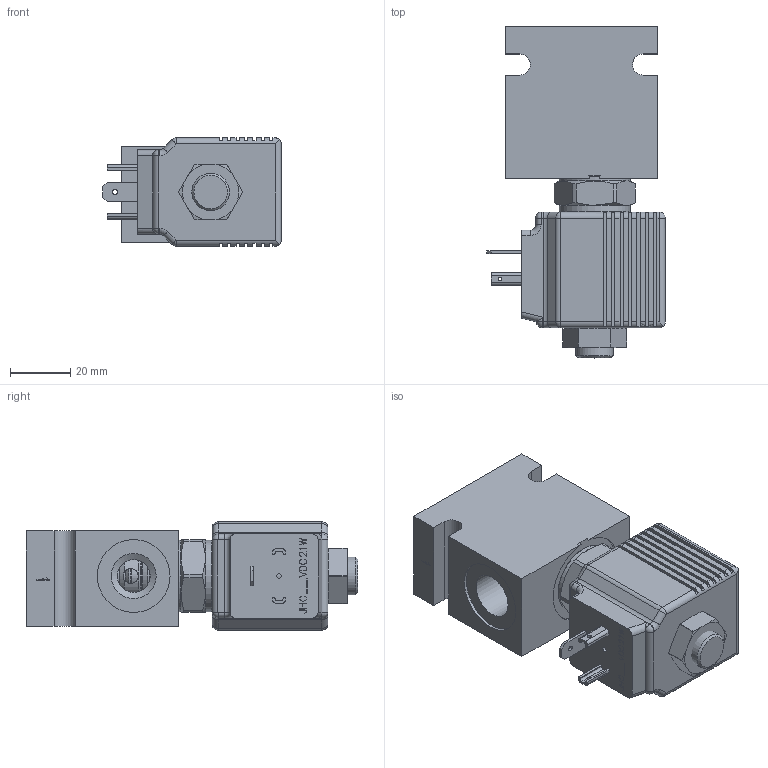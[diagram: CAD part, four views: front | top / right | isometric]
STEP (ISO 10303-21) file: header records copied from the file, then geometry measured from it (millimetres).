
FILE_DESCRIPTION(/* description */ ('Unknown'),/* implementation_level */ '2;1');
FILE_NAME(/* name */ 'T-HBS2K00B2',/* time_stamp */ '2019-08-14T16:12:41+01:00',/* author */ ('Unknown'),/* organization */ ('Unknown'),/* preprocessor_version */ 'ST-DEVELOPER v16.7',/* originating_system */ 'DEX',/* authorisation */ $);
FILE_SCHEMA (('AUTOMOTIVE_DESIGN {1 0 10303 214 3 1 1}'));
Length unit declared in the file: millimetre
Products named in the file (8): T-HBS2K00B2; HBS2K00_0; T-JHC-26-O Rings_0; T-JHC26_0; PT-OR-2-015-N70A_0; Delta_1_2_nut1_0; PT-OR-2-012-E70A_0; B-DPBB2
Assembly tree (8 placements, depth 3):
  T-HBS2K00B2
    HBS2K00_0
    T-JHC-26-O Rings_0
      T-JHC26_0
      PT-OR-2-015-N70A_0  x2
    Delta_1_2_nut1_0
    PT-OR-2-012-E70A_0
    B-DPBB2
Bounding box: 59.4 x 110.4 x 36 mm (x, y, z)
Volume: 65866.1 mm3; surface area: 34949.4 mm2
Topology: 5 solids, 9 shells, 636 faces, 1677 edges, 1079 vertices
Faces by surface type: plane 411, cylinder 123, cone 55, torus 36, sphere 8, bspline 3
Full cylindrical faces by diameter (mm): 0.2 x2, 0.4 x2, 1.245 x2, 1.5 x2, 1.666 x1, 2 x3, 2.65 x2, 2.7 x1, 3 x2, 5 x4, 7.6 x1, 7.8 x1, 8.5 x1, 9.5 x1, 9.75 x1, 9.9 x2, 11 x4, 11.1 x1, 11.2 x1, 12.5 x1, 12.6 x2, 12.65 x2, 12.7 x1, 12.8 x2, 13 x1, 13.1 x1, 14 x1, 14.5 x1, 15 x4, 16.75 x1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
Entity records: 22856 total; most frequent: CARTESIAN_POINT 3616, DIRECTION 2997, ORIENTED_EDGE 2963, EDGE_CURVE 1485, VERTEX_POINT 1031, AXIS2_PLACEMENT_3D 1016, LINE 965, VECTOR 965
